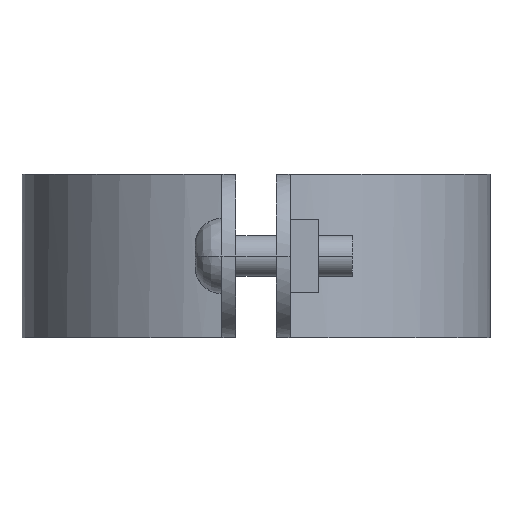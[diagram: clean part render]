
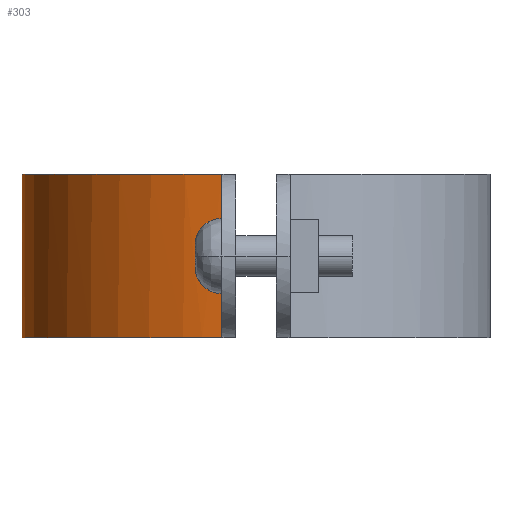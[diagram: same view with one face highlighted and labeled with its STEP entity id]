
A CAD part, left-side view. The second image highlights one B-rep face of the part: STEP entity #303.
In plain terms, the highlighted free-form (B-spline) face has degree [3, 1] with [4, 2] control points.
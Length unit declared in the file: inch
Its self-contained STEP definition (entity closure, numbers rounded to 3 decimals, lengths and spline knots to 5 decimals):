
#303=ADVANCED_FACE('',(#580),#581,.T.);
#580=FACE_OUTER_BOUND('',#1195,.T.);
#581=B_SPLINE_SURFACE_WITH_KNOTS('',3,1,((#1196,#1197),(#1198,#1199),(#1200,#1201),(#1202,#1203)),.UNSPECIFIED.,.F.,.F.,.F.,(4,4),(2,2),(-1.0,-0.0),(0.0,1.25),.UNSPECIFIED.);
#1195=EDGE_LOOP('',(#1929,#1930,#1931,#1932));
#1196=CARTESIAN_POINT('',(2.56287,3.63302,0.0));
#1197=CARTESIAN_POINT('',(2.56287,3.63302,1.25));
#1198=CARTESIAN_POINT('',(1.67394,3.63302,0.0));
#1199=CARTESIAN_POINT('',(1.67394,3.63302,1.25));
#1200=CARTESIAN_POINT('',(0.91933,2.98144,0.0));
#1201=CARTESIAN_POINT('',(0.91933,2.98144,1.25));
#1202=CARTESIAN_POINT('',(0.78978,2.102,0.0));
#1203=CARTESIAN_POINT('',(0.78978,2.102,1.25));
#1929=ORIENTED_EDGE('',*,*,#2049,.T.);
#1930=ORIENTED_EDGE('',*,*,#2193,.F.);
#1931=ORIENTED_EDGE('',*,*,#2274,.T.);
#1932=ORIENTED_EDGE('',*,*,#2220,.T.);
#2049=EDGE_CURVE('',#2349,#2347,#2350,.T.);
#2193=EDGE_CURVE('',#2576,#2347,#2578,.T.);
#2220=EDGE_CURVE('',#2613,#2349,#2614,.T.);
#2274=EDGE_CURVE('',#2576,#2613,#2675,.T.);
#2347=VERTEX_POINT('',#2775);
#2349=VERTEX_POINT('',#2778);
#2350=B_SPLINE_CURVE_WITH_KNOTS('',3,(#2779,#2780,#2781,#2782),.UNSPECIFIED.,.F.,.F.,(4,4),(0.0,1.0),.UNSPECIFIED.);
#2576=VERTEX_POINT('',#3282);
#2578=LINE('',#3285,#3286);
#2613=VERTEX_POINT('',#3353);
#2614=LINE('',#3354,#3355);
#2675=B_SPLINE_CURVE_WITH_KNOTS('',3,(#3459,#3460,#3461,#3462),.UNSPECIFIED.,.F.,.F.,(4,4),(-1.0,-0.0),.UNSPECIFIED.);
#2775=CARTESIAN_POINT('',(2.56287,3.63302,1.24992));
#2778=CARTESIAN_POINT('',(0.78978,2.102,1.24992));
#2779=CARTESIAN_POINT('',(0.78978,2.102,1.24992));
#2780=CARTESIAN_POINT('',(0.91933,2.98144,1.24992));
#2781=CARTESIAN_POINT('',(1.67394,3.63302,1.24992));
#2782=CARTESIAN_POINT('',(2.56287,3.63302,1.24992));
#3282=CARTESIAN_POINT('',(2.56287,3.63302,0.00012));
#3285=CARTESIAN_POINT('',(2.56287,3.63302,0.0));
#3286=VECTOR('',#3619,1.0);
#3353=CARTESIAN_POINT('',(0.78978,2.102,0.00012));
#3354=CARTESIAN_POINT('',(0.78978,2.102,0.0));
#3355=VECTOR('',#3631,1.0);
#3459=CARTESIAN_POINT('',(2.56287,3.63302,0.00012));
#3460=CARTESIAN_POINT('',(1.67394,3.63302,0.00012));
#3461=CARTESIAN_POINT('',(0.91933,2.98144,0.00012));
#3462=CARTESIAN_POINT('',(0.78978,2.102,0.00012));
#3619=DIRECTION('',(0.0,0.0,1.0));
#3631=DIRECTION('',(0.0,0.0,1.0));
